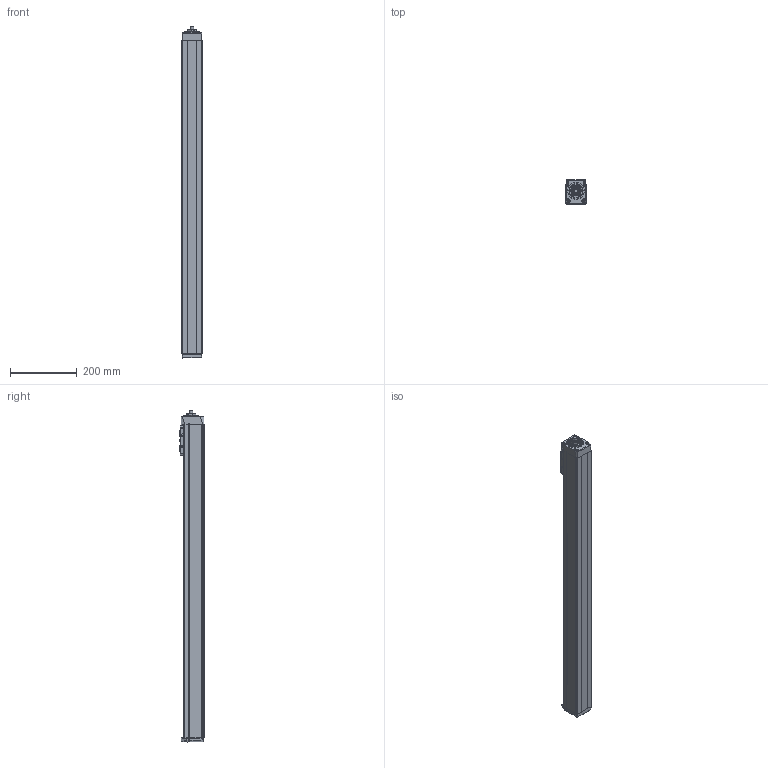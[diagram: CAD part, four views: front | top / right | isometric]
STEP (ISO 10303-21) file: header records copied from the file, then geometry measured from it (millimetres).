
FILE_DESCRIPTION(/* description */ ('STEP AP214'),/* implementation_level */ '2;1');
FILE_NAME(/* name */ 'MGBS 60 1210 800(0)',/* time_stamp */ '2023-04-17T13:20:48+02:00',/* author */ ('License CC BY-ND 4.0'),/* organization */ ('CADENAS'),/* preprocessor_version */ 'ST-DEVELOPER v19.3',/* originating_system */ 'PARTsolutions',/* authorisation */ ' ');
FILE_SCHEMA (('AUTOMOTIVE_DESIGN {1 0 10303 214 3 1 1}'));
Length unit declared in the file: millimetre
Products named in the file (6): MGBS 60 1210 800(0); MGBS 60 800_protection_strip; MGBS 60_carriage; MGBS 60_end_block; MGBS 60 800_profile; MGBS 60_drive_block
Assembly tree (5 placements, depth 2):
  MGBS 60 1210 800(0)
    MGBS 60 800_protection_strip
    MGBS 60_carriage
    MGBS 60_end_block
    MGBS 60 800_profile
    MGBS 60_drive_block
Bounding box: 60 x 72 x 992 mm (x, y, z)
Volume: 3407890.8 mm3; surface area: 412454.8 mm2
Topology: 5 solids, 5 shells, 694 faces, 1756 edges, 1135 vertices
Faces by surface type: plane 366, cylinder 144, cone 97, bspline 62, torus 23, sphere 2
Full cylindrical faces by diameter (mm): 2.459 x2, 2.46 x2, 3.242 x4, 4 x14, 4.134 x8, 4.8 x2, 5 x2, 5.5 x4, 7 x8, 7.6 x4, 8 x2, 10 x1, 11 x3, 23.8 x1, 30 x1, 42 x2, 50.2 x1
Entity records: 24817 total; most frequent: CARTESIAN_POINT 4104, DIRECTION 3372, ORIENTED_EDGE 3194, EDGE_CURVE 1597, AXIS2_PLACEMENT_3D 1197, VERTEX_POINT 1113, LINE 978, VECTOR 978
